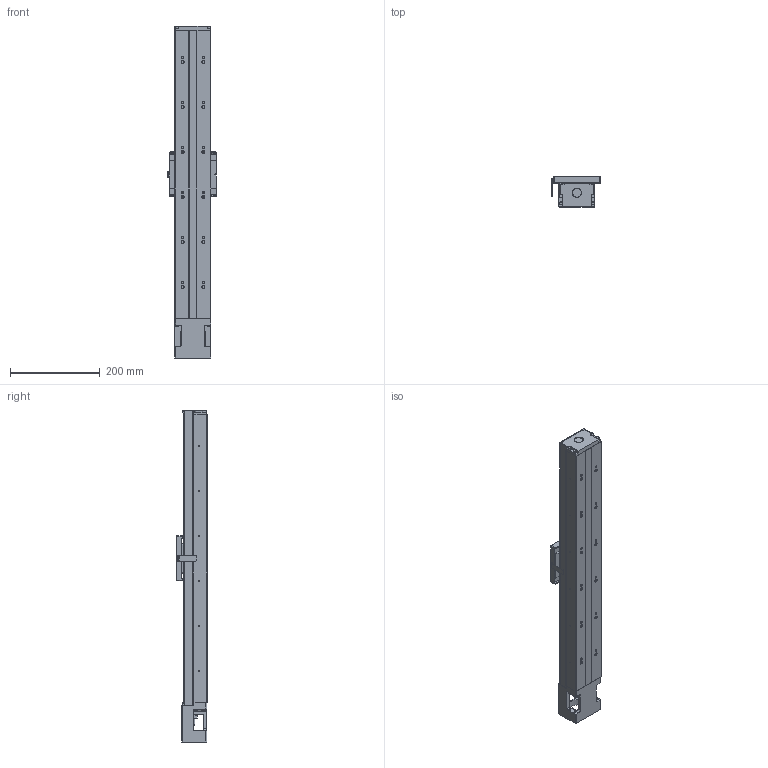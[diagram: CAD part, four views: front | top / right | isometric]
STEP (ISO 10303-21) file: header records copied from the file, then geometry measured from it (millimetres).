
FILE_DESCRIPTION (( 'STEP AP203' ), '1' );
FILE_NAME ('GKAC4580-500-12N-P10-CXXXX-網站用圖.STEP', '2023-04-13T09:21:16', ( '' ), ( '' ), 'SwSTEP 2.0', 'SolidWorks 2019', '' );
FILE_SCHEMA (( 'CONFIG_CONTROL_DESIGN' ));
Products named in the file (3): GKAC4580-500-12N-P10-CXXXX-網站用圖; Group2^GKAC4580-500-12N-P10-CXXXX_defeature-網站用圖_GMT; Group1^GKAC4580-500-12N-P10-CXXXX_defeature-網站用圖_GMT
Assembly tree (2 placements, depth 2):
  GKAC4580-500-12N-P10-CXXXX-網站用圖
    Group1^GKAC4580-500-12N-P10-CXXXX_defeature-網站用圖_GMT
    Group2^GKAC4580-500-12N-P10-CXXXX_defeature-網站用圖_GMT
Bounding box: 108.2 x 67 x 738 mm (x, y, z)
Volume: 1615493.9 mm3; surface area: 512313.5 mm2
Topology: 6 solids, 6 shells, 1994 faces, 5318 edges, 3330 vertices
Faces by surface type: plane 950, cylinder 655, cone 170, torus 160, sphere 40, bspline 19
Entity records: 77327 total; most frequent: CARTESIAN_POINT 26611, DIRECTION 11001, ORIENTED_EDGE 10512, EDGE_CURVE 5256, AXIS2_PLACEMENT_3D 4142, VERTEX_POINT 3324, VECTOR 2717, LINE 2717
